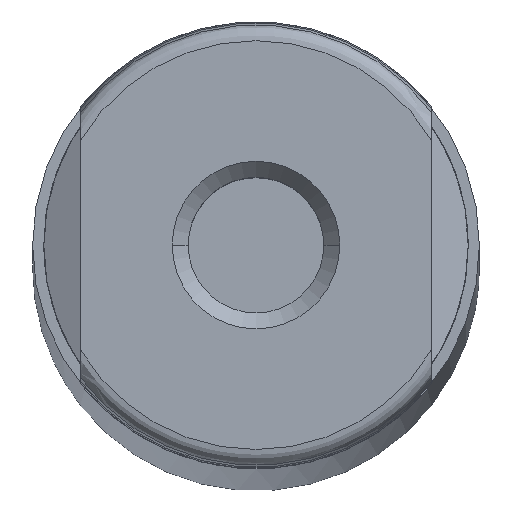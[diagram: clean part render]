
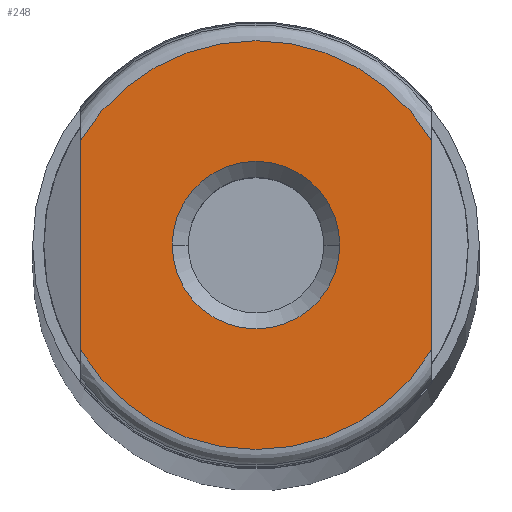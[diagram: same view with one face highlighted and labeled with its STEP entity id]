
A CAD part, top view. The second image highlights one B-rep face of the part: STEP entity #248.
In plain terms, the highlighted planar face has unit normal (0, 0, 1).
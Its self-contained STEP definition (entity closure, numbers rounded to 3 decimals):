
#32 = VERTEX_POINT ( 'NONE', #627 ) ;
#75 = EDGE_CURVE ( 'NONE', #206, #32, #995, .T. ) ;
#139 = ORIENTED_EDGE ( 'NONE', *, *, #1327, .T. ) ;
#185 = EDGE_LOOP ( 'NONE', ( #139, #223, #1359, #1301 ) ) ;
#206 = VERTEX_POINT ( 'NONE', #934 ) ;
#223 = ORIENTED_EDGE ( 'NONE', *, *, #1317, .T. ) ;
#248 = ADVANCED_FACE ( 'NONE', ( #406, #410 ), #411, .F. ) ;
#252 = EDGE_CURVE ( 'NONE', #32, #206, #438, .T. ) ;
#258 = ORIENTED_EDGE ( 'NONE', *, *, #252, .F. ) ;
#274 = EDGE_CURVE ( 'NONE', #762, #848, #528, .T. ) ;
#283 = VERTEX_POINT ( 'NONE', #593 ) ;
#313 = CARTESIAN_POINT ( 'NONE',  ( 11., -6.56, 0. ) ) ;
#406 = FACE_BOUND ( 'NONE', #1284, .T. ) ;
#410 = FACE_OUTER_BOUND ( 'NONE', #185, .T. ) ;
#411 = PLANE ( 'NONE',  #412 ) ;
#412 = AXIS2_PLACEMENT_3D ( 'NONE', #413, #414, #415 ) ;
#413 = CARTESIAN_POINT ( 'NONE',  ( 0., 0., 0. ) ) ;
#414 = DIRECTION ( 'NONE',  ( 0., 0., -1. ) ) ;
#415 = DIRECTION ( 'NONE',  ( -1., 0., 0. ) ) ;
#438 = CIRCLE ( 'NONE', #439, 5.25 ) ;
#439 = AXIS2_PLACEMENT_3D ( 'NONE', #440, #441, #442 ) ;
#440 = CARTESIAN_POINT ( 'NONE',  ( 0., 0., 0. ) ) ;
#441 = DIRECTION ( 'NONE',  ( 0., 0., 1. ) ) ;
#442 = DIRECTION ( 'NONE',  ( 1., 0., 0. ) ) ;
#528 = CIRCLE ( 'NONE', #529, 12.808 ) ;
#529 = AXIS2_PLACEMENT_3D ( 'NONE', #530, #531, #532 ) ;
#530 = CARTESIAN_POINT ( 'NONE',  ( 0., 0., 0. ) ) ;
#531 = DIRECTION ( 'NONE',  ( 0., 0., 1. ) ) ;
#532 = DIRECTION ( 'NONE',  ( 1., 0., 0. ) ) ;
#593 = CARTESIAN_POINT ( 'NONE',  ( -11., -6.56, 0. ) ) ;
#627 = CARTESIAN_POINT ( 'NONE',  ( -5.25, 0., 0. ) ) ;
#762 = VERTEX_POINT ( 'NONE', #928 ) ;
#806 = LINE ( 'NONE', #807, #808 ) ;
#807 = CARTESIAN_POINT ( 'NONE',  ( -11., -14., 0. ) ) ;
#808 = VECTOR ( 'NONE', #809, 1000. ) ;
#809 = DIRECTION ( 'NONE',  ( 0., 1., 0. ) ) ;
#822 = LINE ( 'NONE', #823, #824 ) ;
#823 = CARTESIAN_POINT ( 'NONE',  ( 11., -14., 0. ) ) ;
#824 = VECTOR ( 'NONE', #825, 1000. ) ;
#825 = DIRECTION ( 'NONE',  ( 0., 1., 0. ) ) ;
#848 = VERTEX_POINT ( 'NONE', #1000 ) ;
#903 = CIRCLE ( 'NONE', #904, 12.808 ) ;
#904 = AXIS2_PLACEMENT_3D ( 'NONE', #905, #906, #907 ) ;
#905 = CARTESIAN_POINT ( 'NONE',  ( 0., 0., 0. ) ) ;
#906 = DIRECTION ( 'NONE',  ( 0., 0., 1. ) ) ;
#907 = DIRECTION ( 'NONE',  ( 1., 0., 0. ) ) ;
#928 = CARTESIAN_POINT ( 'NONE',  ( 11., 6.56, 0. ) ) ;
#934 = CARTESIAN_POINT ( 'NONE',  ( 5.25, 0., 0. ) ) ;
#995 = CIRCLE ( 'NONE', #996, 5.25 ) ;
#996 = AXIS2_PLACEMENT_3D ( 'NONE', #997, #998, #999 ) ;
#997 = CARTESIAN_POINT ( 'NONE',  ( 0., 0., 0. ) ) ;
#998 = DIRECTION ( 'NONE',  ( 0., 0., 1. ) ) ;
#999 = DIRECTION ( 'NONE',  ( 1., 0., 0. ) ) ;
#1000 = CARTESIAN_POINT ( 'NONE',  ( -11., 6.56, 0. ) ) ;
#1284 = EDGE_LOOP ( 'NONE', ( #1305, #258 ) ) ;
#1301 = ORIENTED_EDGE ( 'NONE', *, *, #1316, .F. ) ;
#1305 = ORIENTED_EDGE ( 'NONE', *, *, #75, .F. ) ;
#1316 = EDGE_CURVE ( 'NONE', #283, #848, #806, .T. ) ;
#1317 = EDGE_CURVE ( 'NONE', #1356, #762, #822, .T. ) ;
#1327 = EDGE_CURVE ( 'NONE', #283, #1356, #903, .T. ) ;
#1356 = VERTEX_POINT ( 'NONE', #313 ) ;
#1359 = ORIENTED_EDGE ( 'NONE', *, *, #274, .T. ) ;
